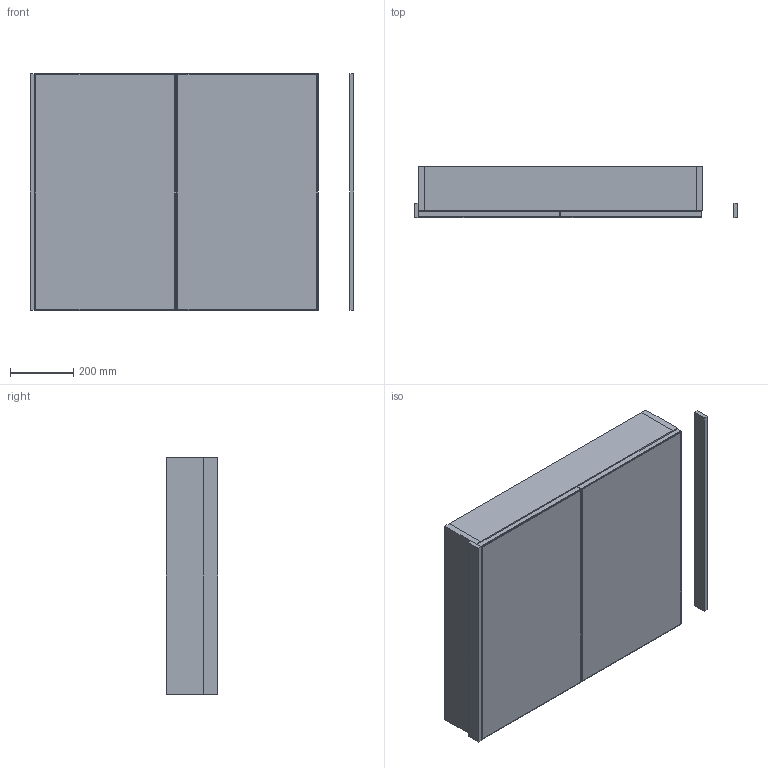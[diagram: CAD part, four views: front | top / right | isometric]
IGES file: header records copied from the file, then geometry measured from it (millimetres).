
Start section: Data from Parasolid IGES Translator 19.0.9, Copyright(c) 2006 Siemens PL M Software. All Rights Reserved.
Global section: file name: noorth-mirror-H 75 D 4,5-16 W 90_9136.igs; native system: By Siemens PLM Incorporated; preprocessor: XPlus GENERIC/IGES 19.0.9; author: Noname; organization: Noname; date: 20200519.105251; units: metre
Bounding box: 1023.82 x 162 x 750 mm (x, y, z)
Volume: 25590608.6 mm3; surface area: 5728005.1 mm2
Topology: 14 solids, 14 shells, 168 faces, 324 edges, 184 vertices
Faces by surface type: plane 168
